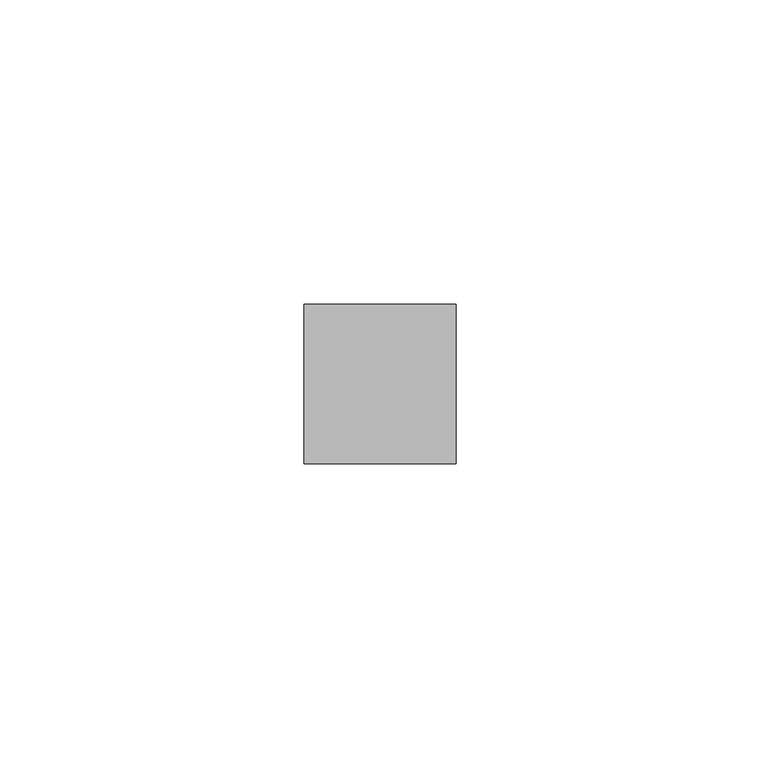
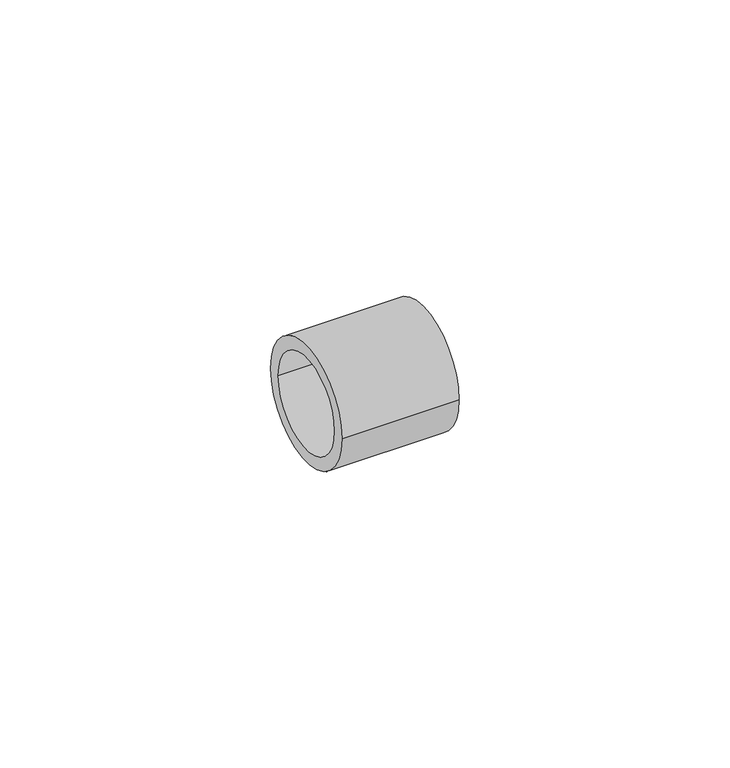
"""IFC4 building model written with IfcOpenShell, lengths in millimetres: pipe fitting geometry, RAUTITAN_Sleeve PX : RTI S PX."""

from ifc_helpers import new_model, si_unit, point, frame, origin, origin_2d, place, context, project, spatial, circle_curve, trimmed, segment, composite_curve, outline, extrude, source, transform, mapped, element, save


def pipe_fitting_749d9a03(model_context):
    return source(origin(), model_context, "Body", "SweptSolid", [
        extrude(outline(composite_curve([segment(trimmed(circle_curve(origin_2d(), 13.15), [point((-13.15, 0.0))], [point((13.15, 0.0))], False, "CARTESIAN"), True, "CONTINUOUS"), segment(trimmed(circle_curve(origin_2d(), 13.15), [point((13.15, 0.0))], [point((-13.15, 0.0))], False, "CARTESIAN"), True, "CONTINUOUS")], self_intersect=False), holes=[composite_curve([segment(trimmed(circle_curve(origin_2d(), 10.35), [point((-10.35, 0.0))], [point((10.35, 0.0))], True, "CARTESIAN"), True, "CONTINUOUS"), segment(trimmed(circle_curve(origin_2d(), 10.35), [point((10.35, 0.0))], [point((-10.35, 0.0))], True, "CARTESIAN"), True, "CONTINUOUS")], self_intersect=False)]), frame((0.0, 0.0, 0.0), z_axis=(1.0, 0.0, 0.0), x_axis=(0.0, 1.0, 0.0)), (0.0, 0.0, 1.0), 25.0),
    ])


if __name__ == "__main__":
    model = new_model("IFC4")
    model_context = context("Model", 3, world=origin())
    ifc_project = project(units=[si_unit("LENGTHUNIT", "METRE", prefix="MILLI")], contexts=[model_context])
    site = spatial("IfcSite", under=ifc_project)
    building = spatial("IfcBuilding", under=site)
    placement = place(None, origin())
    pipe_fitting_shape = pipe_fitting_749d9a03(model_context)
    element("IfcPipeFitting", 1, ObjectType="RAUTITAN_Sleeve PX : RTI S PX", at=placement, inside=building, context=model_context, shape_type="MappedRepresentation", body=[
        mapped(pipe_fitting_shape, transform((0.0, 0.0, 0.0), x_axis=(1.0, 0.0, 0.0), y_axis=(0.0, 1.0, 0.0), z_axis=(0.0, 0.0, 1.0))),
    ])
    save(model, "model.ifc")
